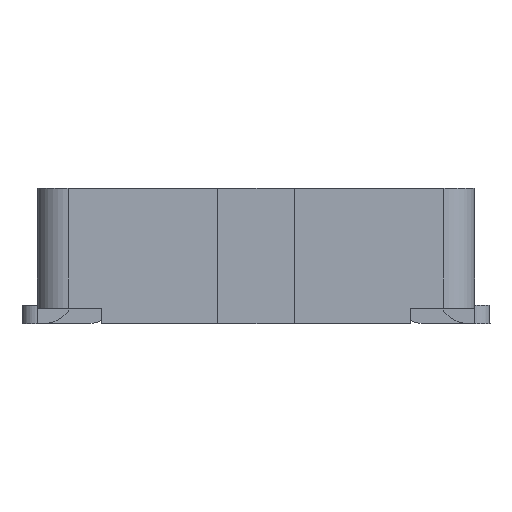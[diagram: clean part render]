
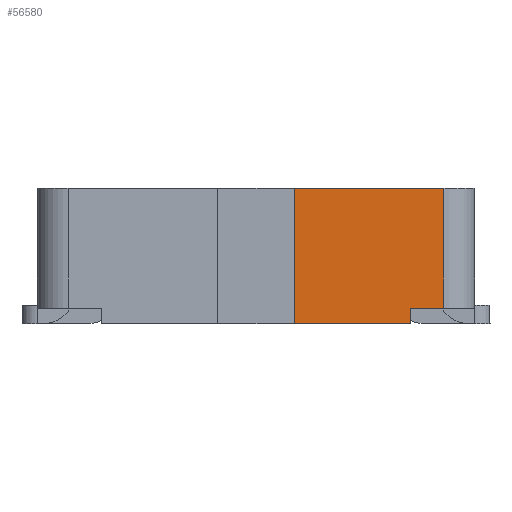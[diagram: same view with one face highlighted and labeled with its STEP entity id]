
A CAD part, left-side view. The second image highlights one B-rep face of the part: STEP entity #56580.
In plain terms, the highlighted planar face has unit normal (-1, 0, 0).
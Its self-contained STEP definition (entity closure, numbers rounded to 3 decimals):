
#520=CARTESIAN_POINT('',(-21.825,-5.835,
-1.08));
#530=VERTEX_POINT('',#520);
#560=CARTESIAN_POINT('',(-21.825,-6.595,
-1.08));
#570=DIRECTION('',(0.,1.,0.));
#580=VECTOR('',#570,1.);
#590=LINE('',#560,#580);
#600=CARTESIAN_POINT('',(-21.825,-6.595,
-1.08));
#610=VERTEX_POINT('',#600);
#620=EDGE_CURVE('',#610,#530,#590,.T.);
#46940=CARTESIAN_POINT('',(-21.825,-6.595,
-0.98));
#46950=VERTEX_POINT('',#46940);
#46980=CARTESIAN_POINT('',(-21.825,-6.81,
-0.98));
#46990=DIRECTION('',(0.,1.,0.));
#47000=VECTOR('',#46990,1.);
#47010=LINE('',#46980,#47000);
#47020=CARTESIAN_POINT('',(-21.825,-6.81,
-0.98));
#47030=VERTEX_POINT('',#47020);
#47040=EDGE_CURVE('',#47030,#46950,#47010,.T.);
#56150=CARTESIAN_POINT('',(-21.825,-6.595,
-1.08));
#56160=DIRECTION('',(0.,0.,1.));
#56170=VECTOR('',#56160,1.);
#56180=LINE('',#56150,#56170);
#56190=EDGE_CURVE('',#610,#46950,#56180,.T.);
#56260=CARTESIAN_POINT('',(-21.825,-4.575,
-1.08));
#56270=DIRECTION('',(1.,-0.,-0.));
#56280=DIRECTION('',(-0.,1.,0.));
#56290=AXIS2_PLACEMENT_3D('',#56260,#56270,#56280);
#56300=PLANE('',#56290);
#56310=ORIENTED_EDGE('',*,*,#620,.F.);
#56320=CARTESIAN_POINT('',(-21.825,-5.835,
-1.08));
#56330=DIRECTION('',(0.,0.,1.));
#56340=VECTOR('',#56330,1.);
#56350=LINE('',#56320,#56340);
#56360=CARTESIAN_POINT('',(-21.825,-5.835,
-0.2));
#56370=VERTEX_POINT('',#56360);
#56380=EDGE_CURVE('',#530,#56370,#56350,.T.);
#56390=ORIENTED_EDGE('',*,*,#56380,.F.);
#56400=CARTESIAN_POINT('',(-21.825,-6.81,
-0.2));
#56410=DIRECTION('',(0.,1.,0.));
#56420=VECTOR('',#56410,1.);
#56430=LINE('',#56400,#56420);
#56440=CARTESIAN_POINT('',(-21.825,-6.81,
-0.2));
#56450=VERTEX_POINT('',#56440);
#56460=EDGE_CURVE('',#56450,#56370,#56430,.T.);
#56470=ORIENTED_EDGE('',*,*,#56460,.T.);
#56480=CARTESIAN_POINT('',(-21.825,-6.81,
-0.2));
#56490=DIRECTION('',(0.,0.,-1.));
#56500=VECTOR('',#56490,1.);
#56510=LINE('',#56480,#56500);
#56520=EDGE_CURVE('',#56450,#47030,#56510,.T.);
#56530=ORIENTED_EDGE('',*,*,#56520,.F.);
#56540=ORIENTED_EDGE('',*,*,#47040,.F.);
#56550=ORIENTED_EDGE('',*,*,#56190,.T.);
#56560=EDGE_LOOP('',(#56550,#56540,#56530,#56470,#56390,#56310));
#56570=FACE_OUTER_BOUND('',#56560,.T.);
#56580=ADVANCED_FACE('',(#56570),#56300,.F.);
